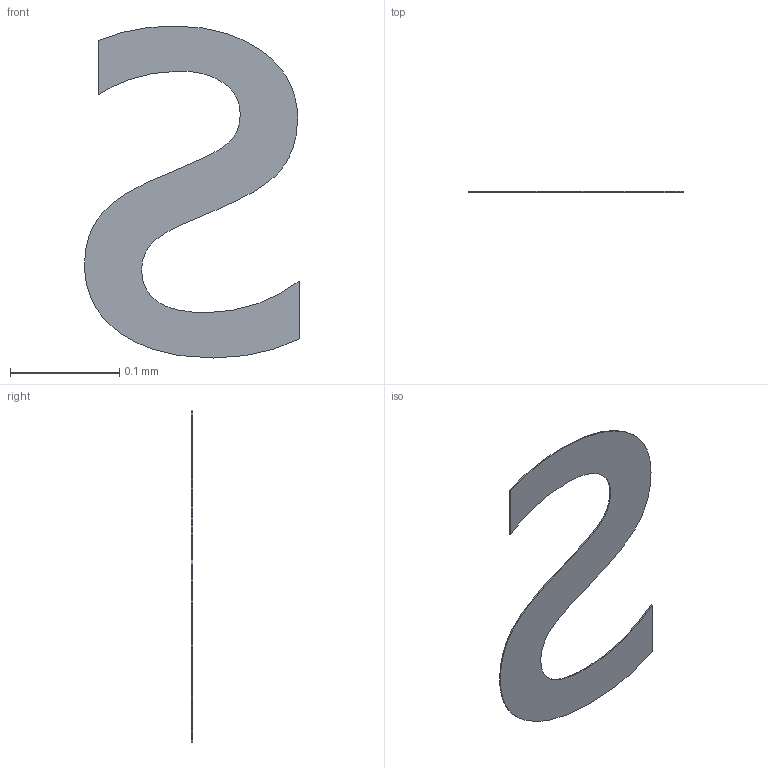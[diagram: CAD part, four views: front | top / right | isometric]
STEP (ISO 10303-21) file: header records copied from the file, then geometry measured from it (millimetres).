
FILE_DESCRIPTION(/* description */ ('STEP AP242 Edition 2','CAx-IF Rec.Pracs.---Representation and Presentation of Product Manufacturing Information (PMI)---4.0---2014-10-13','CAx-IF Rec.Pracs.---3D Tessellated Geometry---0.4---2014-09-14','2;1','CAx-IF Rec.Pracs.---User Defined Attributes---1.5---2016-08-15'),/* implementation_level */ '2;1');
FILE_NAME(/* name */ 'Assembly 1 - SW-TH_EC11E18244A5~SW-TH_EC11E18244A5-L11.7-W12.0-H24.5-P2.5-LS14.5~nxQB (2)',/* time_stamp */ '2026-04-02T09:55:29Z',/* author */ (''),/* organization */ (''),/* preprocessor_version */ 'ST-DEVELOPER v20',/* originating_system */ 'ONSHAPE BY PTC INC, 1.212',/* authorisation */ ' ');
FILE_SCHEMA (('AP242_MANAGED_MODEL_BASED_3D_ENGINEERING_MIM_LF { 1 0 10303 442 3 1 4 }'));
Length unit declared in the file: metre
Products named in the file (1): SW-TH_EC11E18244A5~SW-TH_EC11E18244A5-L11.7-W12.0-H24.5-P2.5-LS14.5~n
xQB
Bounding box: 0.2 x 0 x 0.3 mm (x, y, z)
Volume: 0 mm3; surface area: 0.1 mm2
Topology: 1 solids, 1 shells, 23 faces, 63 edges, 42 vertices
Faces by surface type: bspline 19, plane 4
Entity records: 1015 total; most frequent: CARTESIAN_POINT 376, ORIENTED_EDGE 126, EDGE_CURVE 63, VERTEX_POINT 42, B_SPLINE_CURVE_WITH_KNOTS 38, DIRECTION 35, LINE 25, VECTOR 25
